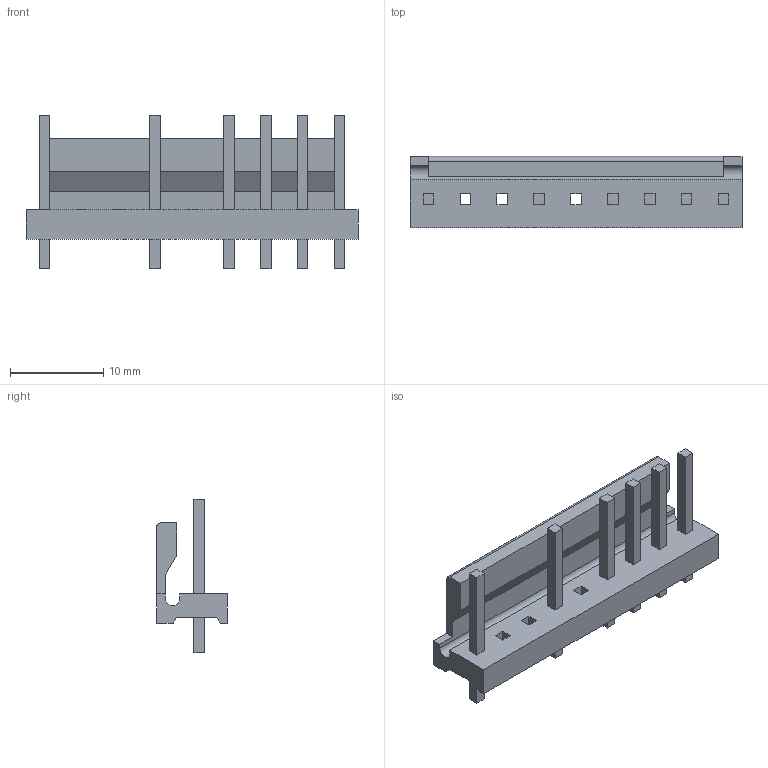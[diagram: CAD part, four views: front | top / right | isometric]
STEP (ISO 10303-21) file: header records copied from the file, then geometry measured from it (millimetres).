
FILE_DESCRIPTION((''),'2;1');
FILE_NAME('C-3-644586-1','2012-12-07T',('workeradm'),('Tyco Electronics Ltd.'),'PRO/ENGINEER BY PARAMETRIC TECHNOLOGY CORPORATION, 2010430','PRO/ENGINEER BY PARAMETRIC TECHNOLOGY CORPORATION, 2010430','');
FILE_SCHEMA(('AUTOMOTIVE_DESIGN { 1 0 10303 214 1 1 1 1 }'));
Length unit declared in the file: millimetre
Products named in the file (1): C-3-644586-1
Bounding box: 35.66 x 7.62 x 16.51 mm (x, y, z)
Volume: 1199.2 mm3; surface area: 1862.7 mm2
Topology: 1 solids, 1 shells, 93 faces, 237 edges, 158 vertices
Faces by surface type: plane 91, cylinder 2
Entity records: 3080 total; most frequent: CARTESIAN_POINT 490, ORIENTED_EDGE 474, DIRECTION 427, EDGE_CURVE 237, VECTOR 233, LINE 233, VERTEX_POINT 158, EDGE_LOOP 111
